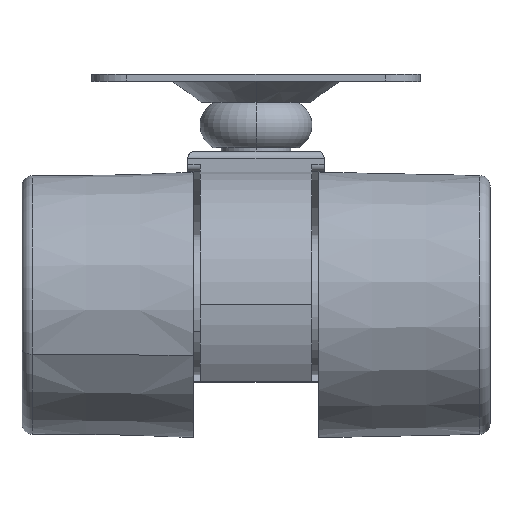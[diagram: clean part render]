
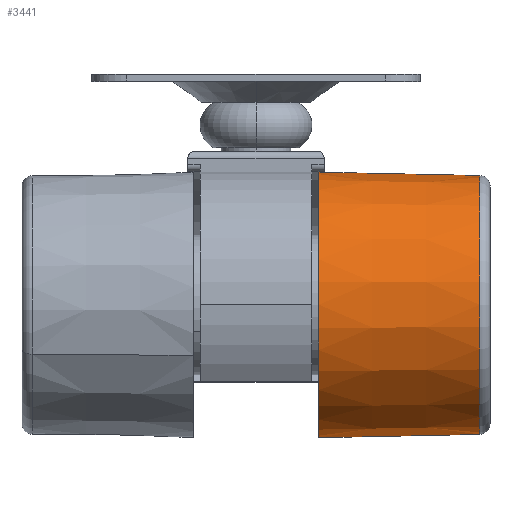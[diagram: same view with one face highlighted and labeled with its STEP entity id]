
A CAD part, top view. The second image highlights one B-rep face of the part: STEP entity #3441.
In plain terms, the highlighted conical face has half-angle 1.169 degrees and reference radius 18.53 mm.
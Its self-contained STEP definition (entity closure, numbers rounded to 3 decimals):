
#49 = EDGE_CURVE ( 'NONE', #198, #3334, #206, .T. ) ;
#72 = CARTESIAN_POINT ( 'NONE',  ( 9., 19., 0. ) ) ;
#147 = ORIENTED_EDGE ( 'NONE', *, *, #667, .F. ) ;
#175 = VECTOR ( 'NONE', #1017, 1000. ) ;
#198 = VERTEX_POINT ( 'NONE', #2589 ) ;
#206 = CIRCLE ( 'NONE', #3393, 18.53 ) ;
#443 = VERTEX_POINT ( 'NONE', #2344 ) ;
#511 = DIRECTION ( 'NONE',  ( 0., -1., 0. ) ) ;
#513 = CARTESIAN_POINT ( 'NONE',  ( 32.031, -18.53, 0. ) ) ;
#579 = DIRECTION ( 'NONE',  ( 0., -1., 0. ) ) ;
#667 = EDGE_CURVE ( 'NONE', #443, #2429, #1836, .T. ) ;
#704 = CARTESIAN_POINT ( 'NONE',  ( 32.031, 18.53, 0. ) ) ;
#732 = DIRECTION ( 'NONE',  ( 0., -1., 0. ) ) ;
#1017 = DIRECTION ( 'NONE',  ( -1., -0.02, 0. ) ) ;
#1083 = CARTESIAN_POINT ( 'NONE',  ( 32.031, 18.53, 0. ) ) ;
#1344 = DIRECTION ( 'NONE',  ( -1., 0., 0. ) ) ;
#1482 = LINE ( 'NONE', #704, #3044 ) ;
#1528 = ORIENTED_EDGE ( 'NONE', *, *, #49, .T. ) ;
#1602 = DIRECTION ( 'NONE',  ( -1., 0., 0. ) ) ;
#1653 = FACE_OUTER_BOUND ( 'NONE', #3160, .T. ) ;
#1748 = CARTESIAN_POINT ( 'NONE',  ( 32.031, 0., 0. ) ) ;
#1836 = CIRCLE ( 'NONE', #3209, 19. ) ;
#2140 = LINE ( 'NONE', #513, #175 ) ;
#2197 = CARTESIAN_POINT ( 'NONE',  ( 9., 0., 0. ) ) ;
#2278 = EDGE_CURVE ( 'NONE', #198, #443, #2140, .T. ) ;
#2288 = ORIENTED_EDGE ( 'NONE', *, *, #2875, .T. ) ;
#2344 = CARTESIAN_POINT ( 'NONE',  ( 9., -19., 0. ) ) ;
#2353 = DIRECTION ( 'NONE',  ( -1., 0., 0. ) ) ;
#2429 = VERTEX_POINT ( 'NONE', #72 ) ;
#2460 = CONICAL_SURFACE ( 'NONE', #2690, 18.53, 0.02 ) ;
#2589 = CARTESIAN_POINT ( 'NONE',  ( 32.031, -18.53, 0. ) ) ;
#2669 = ORIENTED_EDGE ( 'NONE', *, *, #2278, .F. ) ;
#2690 = AXIS2_PLACEMENT_3D ( 'NONE', #3037, #1602, #579 ) ;
#2875 = EDGE_CURVE ( 'NONE', #3334, #2429, #1482, .T. ) ;
#3037 = CARTESIAN_POINT ( 'NONE',  ( 32.031, 0., 0. ) ) ;
#3044 = VECTOR ( 'NONE', #3423, 1000. ) ;
#3160 = EDGE_LOOP ( 'NONE', ( #1528, #2288, #147, #2669 ) ) ;
#3209 = AXIS2_PLACEMENT_3D ( 'NONE', #2197, #1344, #511 ) ;
#3334 = VERTEX_POINT ( 'NONE', #1083 ) ;
#3393 = AXIS2_PLACEMENT_3D ( 'NONE', #1748, #2353, #732 ) ;
#3423 = DIRECTION ( 'NONE',  ( -1., 0.02, 0. ) ) ;
#3441 = ADVANCED_FACE ( 'NONE', ( #1653 ), #2460, .T. ) ;
